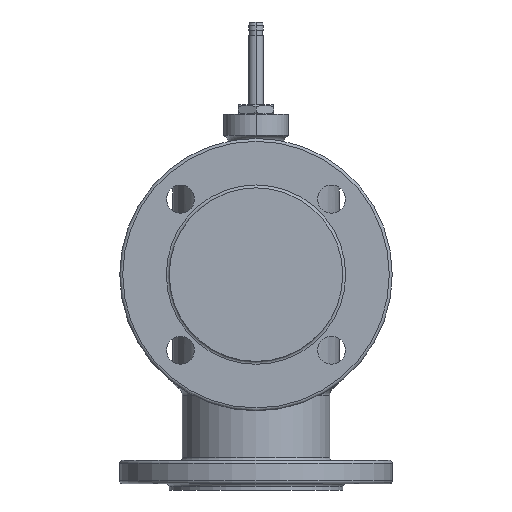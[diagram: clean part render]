
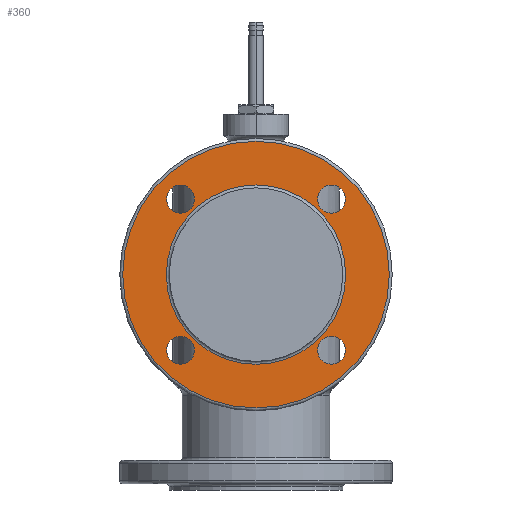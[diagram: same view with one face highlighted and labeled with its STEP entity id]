
A CAD part, left-side view. The second image highlights one B-rep face of the part: STEP entity #360.
In plain terms, the highlighted planar face has unit normal (-1, 0, 0).
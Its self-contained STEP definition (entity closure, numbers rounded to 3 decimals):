
#360=ADVANCED_FACE('',(#525,#526,#527,#528,#529,#530),#458,.T.);
#458=PLANE('',#1833);
#525=FACE_BOUND('',#670,.T.);
#526=FACE_BOUND('',#671,.T.);
#527=FACE_BOUND('',#672,.T.);
#528=FACE_BOUND('',#673,.T.);
#529=FACE_BOUND('',#674,.T.);
#530=FACE_BOUND('',#675,.T.);
#670=EDGE_LOOP('',(#934));
#671=EDGE_LOOP('',(#935));
#672=EDGE_LOOP('',(#936));
#673=EDGE_LOOP('',(#937));
#674=EDGE_LOOP('',(#938));
#675=EDGE_LOOP('',(#939));
#934=ORIENTED_EDGE('',*,*,#1493,.T.);
#935=ORIENTED_EDGE('',*,*,#1494,.T.);
#936=ORIENTED_EDGE('',*,*,#1495,.F.);
#937=ORIENTED_EDGE('',*,*,#1496,.F.);
#938=ORIENTED_EDGE('',*,*,#1497,.F.);
#939=ORIENTED_EDGE('',*,*,#1498,.F.);
#1327=VERTEX_POINT('',#3068);
#1328=VERTEX_POINT('',#3070);
#1329=VERTEX_POINT('',#3072);
#1330=VERTEX_POINT('',#3074);
#1331=VERTEX_POINT('',#3076);
#1332=VERTEX_POINT('',#3078);
#1493=EDGE_CURVE('',#1327,#1327,#1669,.T.);
#1494=EDGE_CURVE('',#1328,#1328,#1670,.T.);
#1495=EDGE_CURVE('',#1329,#1329,#1671,.T.);
#1496=EDGE_CURVE('',#1330,#1330,#1672,.T.);
#1497=EDGE_CURVE('',#1331,#1331,#1673,.T.);
#1498=EDGE_CURVE('',#1332,#1332,#1674,.T.);
#1669=CIRCLE('',#1827,90.5);
#1670=CIRCLE('',#1828,60.9);
#1671=CIRCLE('',#1829,9.5);
#1672=CIRCLE('',#1830,9.5);
#1673=CIRCLE('',#1831,9.5);
#1674=CIRCLE('',#1832,9.5);
#1827=AXIS2_PLACEMENT_3D('',#3067,#2177,#2178);
#1828=AXIS2_PLACEMENT_3D('',#3069,#2179,#2180);
#1829=AXIS2_PLACEMENT_3D('',#3071,#2181,#2182);
#1830=AXIS2_PLACEMENT_3D('',#3073,#2183,#2184);
#1831=AXIS2_PLACEMENT_3D('',#3075,#2185,#2186);
#1832=AXIS2_PLACEMENT_3D('',#3077,#2187,#2188);
#1833=AXIS2_PLACEMENT_3D('',#3079,#2189,#2190);
#2177=DIRECTION('',(-1.,0.,0.));
#2178=DIRECTION('',(0.,0.,1.));
#2179=DIRECTION('',(1.,0.,0.));
#2180=DIRECTION('',(0.,0.,1.));
#2181=DIRECTION('',(-1.,0.,0.));
#2182=DIRECTION('',(0.,0.,1.));
#2183=DIRECTION('',(-1.,0.,0.));
#2184=DIRECTION('',(0.,0.,1.));
#2185=DIRECTION('',(-1.,0.,0.));
#2186=DIRECTION('',(0.,0.,1.));
#2187=DIRECTION('',(-1.,0.,0.));
#2188=DIRECTION('',(0.,0.,1.));
#2189=DIRECTION('',(-1.,0.,0.));
#2190=DIRECTION('',(0.,0.,-1.));
#3067=CARTESIAN_POINT('',(158.5,0.,0.));
#3068=CARTESIAN_POINT('',(158.5,0.,90.5));
#3069=CARTESIAN_POINT('',(158.5,0.,0.));
#3070=CARTESIAN_POINT('',(158.5,0.,60.9));
#3071=CARTESIAN_POINT('',(158.5,51.265,-51.265));
#3072=CARTESIAN_POINT('',(158.5,51.265,-41.765));
#3073=CARTESIAN_POINT('',(158.5,-51.265,-51.265));
#3074=CARTESIAN_POINT('',(158.5,-51.265,-41.765));
#3075=CARTESIAN_POINT('',(158.5,-51.265,51.265));
#3076=CARTESIAN_POINT('',(158.5,-51.265,60.765));
#3077=CARTESIAN_POINT('',(158.5,51.265,51.265));
#3078=CARTESIAN_POINT('',(158.5,51.265,60.765));
#3079=CARTESIAN_POINT('',(158.5,0.,0.));
